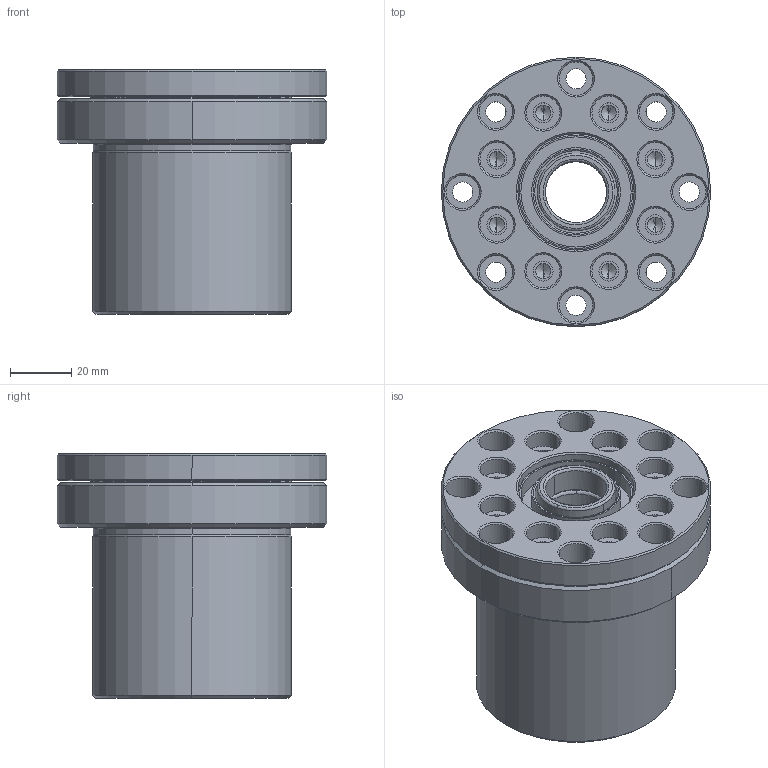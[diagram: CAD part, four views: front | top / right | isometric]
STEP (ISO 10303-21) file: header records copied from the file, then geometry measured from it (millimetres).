
FILE_DESCRIPTION (( 'STEP AP203' ), '1' );
FILE_NAME ('MBK20DFF.STEP', '2010-03-25T23:37:49', ( '' ), ( '' ), 'SwSTEP 2.0', 'SolidWorks 2008', '' );
FILE_SCHEMA (( 'CONFIG_CONTROL_DESIGN' ));
Length unit declared in the file: millimetre
Products named in the file (1): MBK20DFF
Bounding box: 88 x 88 x 80 mm (x, y, z)
Volume: 253560.8 mm3; surface area: 111984.1 mm2
Topology: 72 solids, 72 shells, 593 faces, 1522 edges, 839 vertices
Faces by surface type: cylinder 197, bspline 187, cone 145, plane 62, torus 2
Entity records: 19868 total; most frequent: CARTESIAN_POINT 7282, DIRECTION 2673, ORIENTED_EDGE 2560, EDGE_CURVE 1280, AXIS2_PLACEMENT_3D 1176, VERTEX_POINT 839, CIRCLE 769, EDGE_LOOP 683
